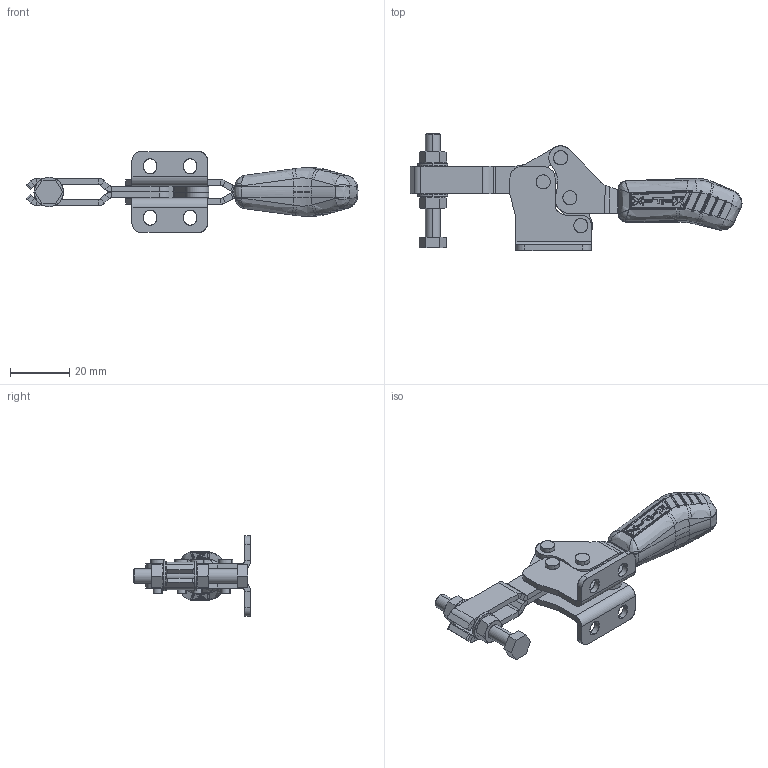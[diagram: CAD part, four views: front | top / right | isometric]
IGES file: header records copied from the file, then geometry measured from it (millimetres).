
Start section: SolidWorks IGES file using analytic representation for surfaces
Global section: file name: C:\Projetos\Grampos\KF-312\KF-312 D\KF-312 D.IGS; native system: SolidWorks 2018; preprocessor: SolidWorks 2018; author: Ricardo; date: 180306.083344; units: millimetre
Bounding box: 111.72 x 39.45 x 27.2 mm (x, y, z)
Surface area: 14975.7 mm2 (no closed solid volume)
Topology: 0 solids, 0 shells, 1083 faces, 11530 edges, 11509 vertices
Faces by surface type: bspline 591, revolution 492
